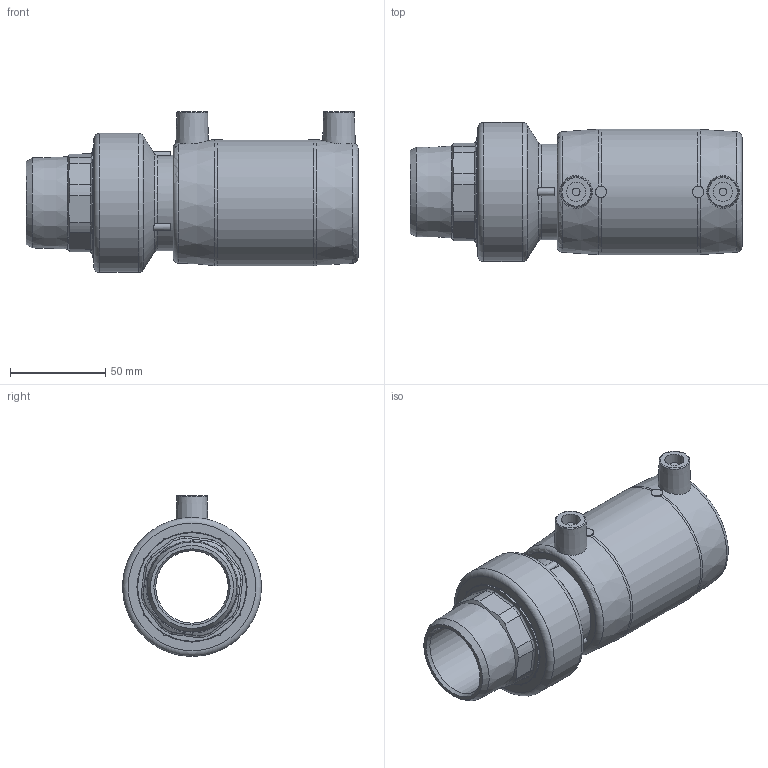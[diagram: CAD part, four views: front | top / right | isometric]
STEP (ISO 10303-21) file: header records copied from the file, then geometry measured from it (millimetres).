
FILE_DESCRIPTION(/* description */ ('Unknown'),/* implementation_level */ '2;1');
FILE_NAME(/* name */ 'MTMP050C',/* time_stamp */ '2021-03-02T10:02:00+01:00',/* author */ ('Unknown'),/* organization */ ('Unknown'),/* preprocessor_version */ 'ST-DEVELOPER v16.7',/* originating_system */ 'Solid Edge',/* authorisation */ 'Unknown');
FILE_SCHEMA (('AUTOMOTIVE_DESIGN {1 0 10303 214 3 1 1}'));
Length unit declared in the file: millimetre
Products named in the file (5): MTMP050C; MP050C; RTOMP050C; Parte PE 050; IOM050C
Assembly tree (4 placements, depth 3):
  MTMP050C
    MP050C
    RTOMP050C
      Parte PE 050
      IOM050C
Bounding box: 174.25 x 73 x 84.5 mm (x, y, z)
Volume: 289752.2 mm3; surface area: 99891.6 mm2
Topology: 3 solids, 3 shells, 548 faces, 1486 edges, 960 vertices
Faces by surface type: cylinder 214, plane 142, bspline 75, cone 72, torus 33, sphere 12
Full cylindrical faces by diameter (mm): 4 x2, 6 x2, 10 x2, 38 x1, 40.8 x1, 44 x2, 48.3 x2, 48.5 x2, 50 x2, 56.5 x2, 57 x1, 61.5 x2, 61.587 x2, 66 x1, 73 x1
Entity records: 21941 total; most frequent: CARTESIAN_POINT 7662, ORIENTED_EDGE 2804, DIRECTION 2288, EDGE_CURVE 1402, AXIS2_PLACEMENT_3D 1014, VERTEX_POINT 932, EDGE_LOOP 626, FACE_BOUND 626
